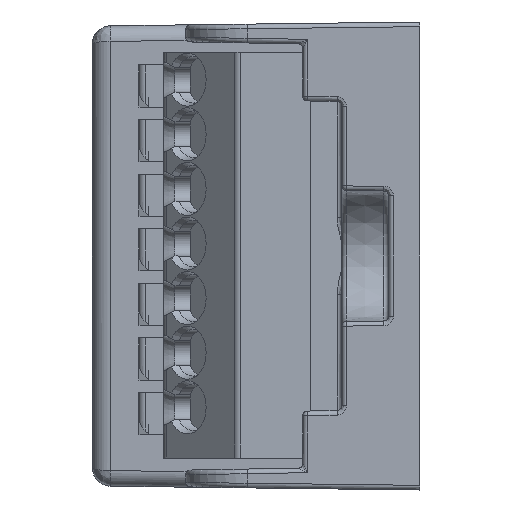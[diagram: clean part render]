
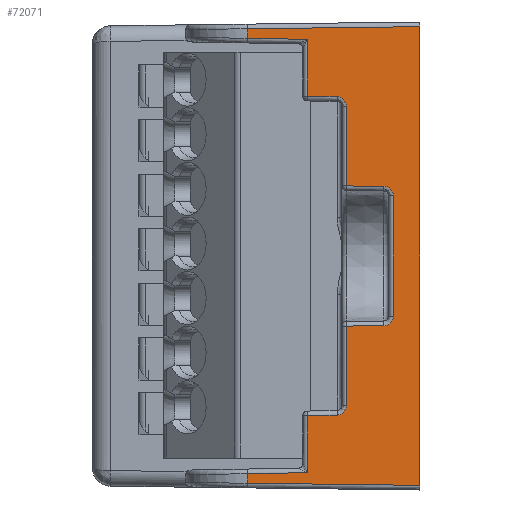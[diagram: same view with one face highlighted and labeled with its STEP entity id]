
A CAD part, left-side view. The second image highlights one B-rep face of the part: STEP entity #72071.
In plain terms, the highlighted planar face has unit normal (-1, 0.018, 0).
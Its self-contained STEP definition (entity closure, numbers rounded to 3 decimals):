
#20334=DIRECTION('',(0.,0.,-1.));
#20335=VECTOR('',#20334,29.4);
#20336=CARTESIAN_POINT('',(-79.5,0.,14.7));
#20337=LINE('',#20336,#20335);
#21169=DIRECTION('',(0.,0.,1.));
#21170=VECTOR('',#21169,7.74);
#21171=CARTESIAN_POINT('',(-79.47,1.705,
-3.87));
#21172=LINE('',#21171,#21170);
#21293=CARTESIAN_POINT('',(-79.46,2.3,
4.47));
#21294=CARTESIAN_POINT('',(-79.461,2.235,
4.469));
#21295=CARTESIAN_POINT('',(-79.463,2.113,
4.448));
#21296=CARTESIAN_POINT('',(-79.466,1.944,
4.361));
#21297=CARTESIAN_POINT('',(-79.468,1.811,
4.227));
#21298=CARTESIAN_POINT('',(-79.47,1.725,
4.057));
#21299=CARTESIAN_POINT('',(-79.47,1.705,
3.935));
#21300=CARTESIAN_POINT('',(-79.47,1.705,
3.87));
#21305=CARTESIAN_POINT('',(-79.408,5.295,
10.205));
#21306=CARTESIAN_POINT('',(-79.409,5.23,
10.204));
#21307=CARTESIAN_POINT('',(-79.411,5.109,
10.182));
#21308=CARTESIAN_POINT('',(-79.414,4.941,
10.094));
#21309=CARTESIAN_POINT('',(-79.416,4.81,
9.961));
#21310=CARTESIAN_POINT('',(-79.418,4.725,
9.791));
#21311=CARTESIAN_POINT('',(-79.418,4.705,
9.67));
#21312=CARTESIAN_POINT('',(-79.418,4.705,
9.605));
#21317=DIRECTION('',(-0.017,-1.,-0.017));
#21318=VECTOR('',#21317,1.911);
#21319=CARTESIAN_POINT('',(-79.374,7.205,
10.238));
#21320=LINE('',#21319,#21318);
#21324=DIRECTION('',(-0.017,-1.,-0.017));
#21325=VECTOR('',#21324,3.866);
#21326=CARTESIAN_POINT('',(-79.307,11.07,
13.956));
#21327=LINE('',#21326,#21325);
#21331=DIRECTION('',(0.017,1.,-0.012));
#21332=VECTOR('',#21331,11.072);
#21333=CARTESIAN_POINT('',(-79.5,0.,14.7));
#21334=LINE('',#21333,#21332);
#21338=DIRECTION('',(-0.017,-1.,-0.012));
#21339=VECTOR('',#21338,11.072);
#21340=CARTESIAN_POINT('',(-79.307,11.07,
-14.565));
#21341=LINE('',#21340,#21339);
#21345=DIRECTION('',(0.017,1.,-0.017));
#21346=VECTOR('',#21345,3.866);
#21347=CARTESIAN_POINT('',(-79.374,7.205,
-13.888));
#21348=LINE('',#21347,#21346);
#21352=DIRECTION('',(0.017,1.,-0.017));
#21353=VECTOR('',#21352,1.911);
#21354=CARTESIAN_POINT('',(-79.408,5.295,
-10.205));
#21355=LINE('',#21354,#21353);
#21359=CARTESIAN_POINT('',(-79.418,4.705,
-9.605));
#21360=CARTESIAN_POINT('',(-79.418,4.705,
-9.67));
#21361=CARTESIAN_POINT('',(-79.418,4.725,
-9.791));
#21362=CARTESIAN_POINT('',(-79.416,4.81,
-9.961));
#21363=CARTESIAN_POINT('',(-79.414,4.941,
-10.094));
#21364=CARTESIAN_POINT('',(-79.411,5.109,
-10.182));
#21365=CARTESIAN_POINT('',(-79.409,5.23,
-10.204));
#21366=CARTESIAN_POINT('',(-79.408,5.295,
-10.205));
#21371=CARTESIAN_POINT('',(-79.47,1.705,
-3.87));
#21372=CARTESIAN_POINT('',(-79.47,1.705,
-3.935));
#21373=CARTESIAN_POINT('',(-79.47,1.725,
-4.057));
#21374=CARTESIAN_POINT('',(-79.468,1.811,
-4.227));
#21375=CARTESIAN_POINT('',(-79.466,1.944,
-4.361));
#21376=CARTESIAN_POINT('',(-79.463,2.113,
-4.449));
#21377=CARTESIAN_POINT('',(-79.461,2.235,
-4.469));
#21378=CARTESIAN_POINT('',(-79.46,2.3,
-4.47));
#21383=DIRECTION('',(0.017,1.,0.009));
#21384=VECTOR('',#21383,2.406);
#21385=CARTESIAN_POINT('',(-79.46,2.3,
4.47));
#21386=LINE('',#21385,#21384);
#21442=DIRECTION('',(0.,0.,1.));
#21443=VECTOR('',#21442,5.114);
#21444=CARTESIAN_POINT('',(-79.418,4.705,
4.491));
#21445=LINE('',#21444,#21443);
#22932=DIRECTION('',(0.,0.,1.));
#22933=VECTOR('',#22932,0.609);
#22934=CARTESIAN_POINT('',(-79.307,11.07,
13.956));
#22935=LINE('',#22934,#22933);
#22994=DIRECTION('',(0.,0.,1.));
#22995=VECTOR('',#22994,3.65);
#22996=CARTESIAN_POINT('',(-79.374,7.205,
10.238));
#22997=LINE('',#22996,#22995);
#23151=CARTESIAN_POINT('',(-79.5,0.,14.7));
#23315=DIRECTION('',(0.,0.,1.));
#23316=VECTOR('',#23315,0.609);
#23317=CARTESIAN_POINT('',(-79.307,11.07,
-14.565));
#23318=LINE('',#23317,#23316);
#23554=DIRECTION('',(0.,0.,1.));
#23555=VECTOR('',#23554,5.114);
#23556=CARTESIAN_POINT('',(-79.418,4.705,
-9.605));
#23557=LINE('',#23556,#23555);
#23659=DIRECTION('',(-0.017,-1.,0.009));
#23660=VECTOR('',#23659,2.406);
#23661=CARTESIAN_POINT('',(-79.418,4.705,
-4.491));
#23662=LINE('',#23661,#23660);
#23697=DIRECTION('',(0.,0.,1.));
#23698=VECTOR('',#23697,3.65);
#23699=CARTESIAN_POINT('',(-79.374,7.205,
-13.888));
#23700=LINE('',#23699,#23698);
#52752=CARTESIAN_POINT('',(-79.307,11.07,
-13.956));
#52753=VERTEX_POINT('',#52752);
#52754=CARTESIAN_POINT('',(-79.374,7.205,
-13.888));
#52755=VERTEX_POINT('',#52754);
#52870=VERTEX_POINT('',#23151);
#52871=CARTESIAN_POINT('',(-79.5,0.,-14.7));
#52872=VERTEX_POINT('',#52871);
#52946=CARTESIAN_POINT('',(-79.47,1.705,
3.87));
#52947=VERTEX_POINT('',#52946);
#52948=CARTESIAN_POINT('',(-79.47,1.705,
-3.87));
#52949=VERTEX_POINT('',#52948);
#52951=VERTEX_POINT('',#21293);
#52959=CARTESIAN_POINT('',(-79.46,2.3,
-4.47));
#52960=VERTEX_POINT('',#52959);
#52961=CARTESIAN_POINT('',(-79.418,4.705,
-4.491));
#52962=VERTEX_POINT('',#52961);
#52963=CARTESIAN_POINT('',(-79.418,4.705,
-9.605));
#52964=VERTEX_POINT('',#52963);
#52965=VERTEX_POINT('',#21366);
#52966=CARTESIAN_POINT('',(-79.374,7.205,
-10.238));
#52967=VERTEX_POINT('',#52966);
#52968=CARTESIAN_POINT('',(-79.307,11.07,
-14.565));
#52969=VERTEX_POINT('',#52968);
#52970=CARTESIAN_POINT('',(-79.307,11.07,
14.565));
#52971=VERTEX_POINT('',#52970);
#52972=CARTESIAN_POINT('',(-79.307,11.07,
13.956));
#52973=VERTEX_POINT('',#52972);
#52974=CARTESIAN_POINT('',(-79.374,7.205,
13.888));
#52975=VERTEX_POINT('',#52974);
#52976=CARTESIAN_POINT('',(-79.374,7.205,
10.238));
#52977=VERTEX_POINT('',#52976);
#52978=CARTESIAN_POINT('',(-79.408,5.295,
10.205));
#52979=VERTEX_POINT('',#52978);
#52980=VERTEX_POINT('',#21312);
#52981=CARTESIAN_POINT('',(-79.418,4.705,
4.491));
#52982=VERTEX_POINT('',#52981);
#72028=CARTESIAN_POINT('',(-79.5,0.,16.2));
#72029=DIRECTION('',(-1.,0.017,0.));
#72030=DIRECTION('',(0.,0.,1.));
#72031=AXIS2_PLACEMENT_3D('',#72028,#72029,#72030);
#72032=PLANE('',#72031);
#72033=ORIENTED_EDGE('',*,*,#71875,.T.);
#72034=ORIENTED_EDGE('',*,*,#71928,.F.);
#72036=ORIENTED_EDGE('',*,*,#72035,.T.);
#72038=ORIENTED_EDGE('',*,*,#72037,.T.);
#72040=ORIENTED_EDGE('',*,*,#72039,.F.);
#72042=ORIENTED_EDGE('',*,*,#72041,.F.);
#72044=ORIENTED_EDGE('',*,*,#72043,.T.);
#72046=ORIENTED_EDGE('',*,*,#72045,.F.);
#72048=ORIENTED_EDGE('',*,*,#72047,.T.);
#72050=ORIENTED_EDGE('',*,*,#72049,.F.);
#72051=ORIENTED_EDGE('',*,*,#71135,.T.);
#72053=ORIENTED_EDGE('',*,*,#72052,.F.);
#72055=ORIENTED_EDGE('',*,*,#72054,.T.);
#72057=ORIENTED_EDGE('',*,*,#72056,.F.);
#72059=ORIENTED_EDGE('',*,*,#72058,.T.);
#72061=ORIENTED_EDGE('',*,*,#72060,.F.);
#72063=ORIENTED_EDGE('',*,*,#72062,.F.);
#72065=ORIENTED_EDGE('',*,*,#72064,.T.);
#72067=ORIENTED_EDGE('',*,*,#72066,.T.);
#72068=ORIENTED_EDGE('',*,*,#72021,.F.);
#72069=EDGE_LOOP('',(#72033,#72034,#72036,#72038,#72040,#72042,#72044,#72046,
#72048,#72050,#72051,#72053,#72055,#72057,#72059,#72061,#72063,#72065,#72067,
#72068));
#72070=FACE_OUTER_BOUND('',#72069,.F.);
#21301=B_SPLINE_CURVE_WITH_KNOTS('',3,(#21293,#21294,#21295,#21296,#21297,
#21298,#21299,#21300),.UNSPECIFIED.,.F.,.F.,(4,1,1,1,1,4),(0.,0.2,0.4,
0.6,0.8,1.),.UNSPECIFIED.);
#21313=B_SPLINE_CURVE_WITH_KNOTS('',3,(#21305,#21306,#21307,#21308,#21309,
#21310,#21311,#21312),.UNSPECIFIED.,.F.,.F.,(4,1,1,1,1,4),(0.,0.2,0.4,
0.6,0.8,1.),.UNSPECIFIED.);
#21367=B_SPLINE_CURVE_WITH_KNOTS('',3,(#21359,#21360,#21361,#21362,#21363,
#21364,#21365,#21366),.UNSPECIFIED.,.F.,.F.,(4,1,1,1,1,4),(0.,0.2,0.4,
0.6,0.8,1.),.UNSPECIFIED.);
#21379=B_SPLINE_CURVE_WITH_KNOTS('',3,(#21371,#21372,#21373,#21374,#21375,
#21376,#21377,#21378),.UNSPECIFIED.,.F.,.F.,(4,1,1,1,1,4),(0.,0.2,0.4,
0.6,0.8,1.),.UNSPECIFIED.);
#71135=EDGE_CURVE('',#52870,#52872,#20337,.T.);
#71875=EDGE_CURVE('',#52949,#52947,#21172,.T.);
#71928=EDGE_CURVE('',#52951,#52947,#21301,.T.);
#72021=EDGE_CURVE('',#52949,#52960,#21379,.T.);
#72035=EDGE_CURVE('',#52951,#52982,#21386,.T.);
#72037=EDGE_CURVE('',#52982,#52980,#21445,.T.);
#72039=EDGE_CURVE('',#52979,#52980,#21313,.T.);
#72041=EDGE_CURVE('',#52977,#52979,#21320,.T.);
#72043=EDGE_CURVE('',#52977,#52975,#22997,.T.);
#72045=EDGE_CURVE('',#52973,#52975,#21327,.T.);
#72047=EDGE_CURVE('',#52973,#52971,#22935,.T.);
#72049=EDGE_CURVE('',#52870,#52971,#21334,.T.);
#72052=EDGE_CURVE('',#52969,#52872,#21341,.T.);
#72054=EDGE_CURVE('',#52969,#52753,#23318,.T.);
#72056=EDGE_CURVE('',#52755,#52753,#21348,.T.);
#72058=EDGE_CURVE('',#52755,#52967,#23700,.T.);
#72060=EDGE_CURVE('',#52965,#52967,#21355,.T.);
#72062=EDGE_CURVE('',#52964,#52965,#21367,.T.);
#72064=EDGE_CURVE('',#52964,#52962,#23557,.T.);
#72066=EDGE_CURVE('',#52962,#52960,#23662,.T.);
#72071=ADVANCED_FACE('',(#72070),#72032,.T.);
